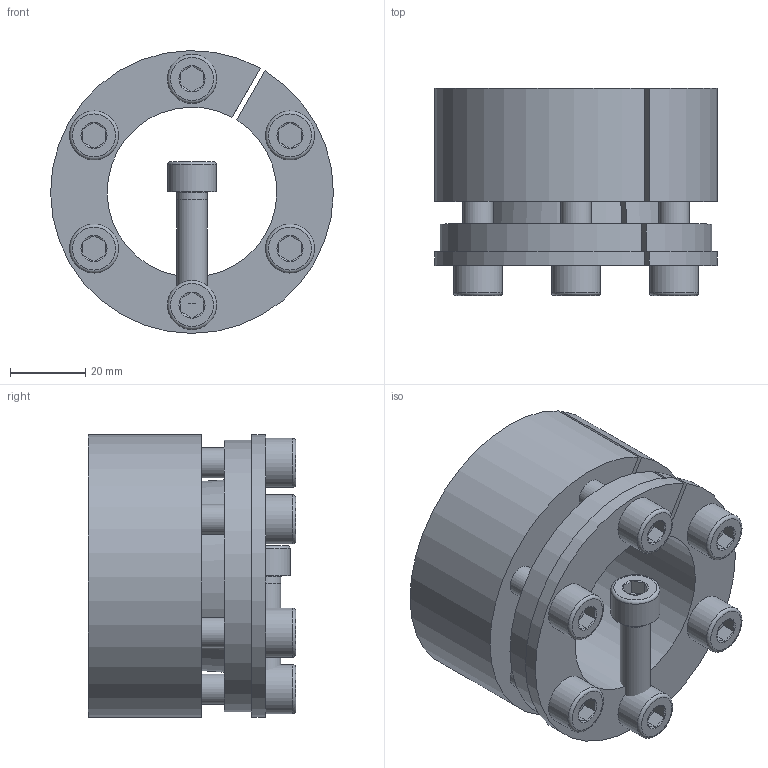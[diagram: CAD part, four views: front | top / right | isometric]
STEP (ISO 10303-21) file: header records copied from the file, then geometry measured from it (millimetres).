
FILE_DESCRIPTION( ( 'Unknown' ), '1' );
FILE_NAME( 'C:/Dokumente und Einstellungen/Sven/Desktop/homepage/cad - homepage/KBS70/KBS 70 - 45 x 75.stp', 'Unknown', ( 'Unknown' ), ( 'Unknown' ), 'XStep 1.0', 'Unknown', ' ' );
FILE_SCHEMA( ( 'automotive_design' ) );
Length unit declared in the file: millimetre
Products named in the file (3): Assem1; KBS 70 - 45 x 75; ISO EN DIN 4762 M8x30
Bounding box: 75 x 55 x 74.99 mm (x, y, z)
Volume: 221768.2 mm3; surface area: 77377.1 mm2
Topology: 9 solids, 9 shells, 227 faces, 467 edges, 286 vertices
Faces by surface type: plane 100, cylinder 60, cone 53, torus 14
Full cylindrical faces by diameter (mm): 7 x7, 8 x38, 13 x7
Entity records: 1694 total; most frequent: CARTESIAN_POINT 283, DIRECTION 256, ORIENTED_EDGE 190, AXIS2_PLACEMENT_3D 112, EDGE_LOOP 98, EDGE_CURVE 95, VERTEX_POINT 71, FACE_OUTER_BOUND 69
